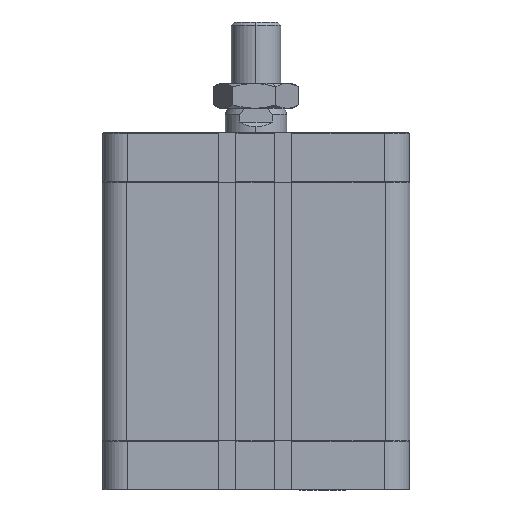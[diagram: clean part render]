
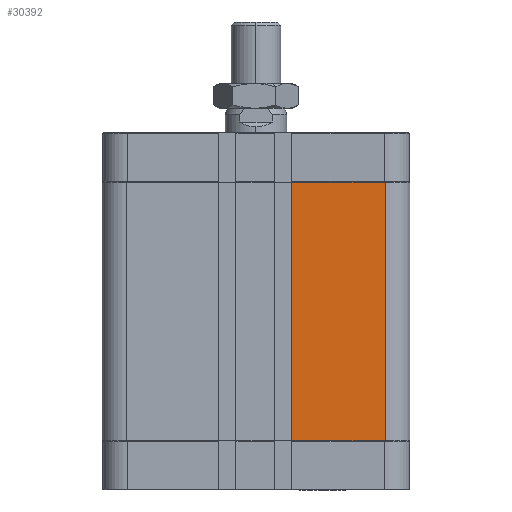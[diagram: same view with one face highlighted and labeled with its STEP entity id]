
A CAD part, front view. The second image highlights one B-rep face of the part: STEP entity #30392.
In plain terms, the highlighted planar face has unit normal (0, -1, 0).
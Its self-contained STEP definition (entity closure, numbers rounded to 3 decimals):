
#1109 = DIRECTION ( 'NONE',  ( 0., 0., 1. ) ) ;
#1254 = FACE_OUTER_BOUND ( 'NONE', #5740, .T. ) ;
#1367 = ORIENTED_EDGE ( 'NONE', *, *, #14420, .F. ) ;
#3745 = CARTESIAN_POINT ( 'NONE',  ( 11.5, -50., -16. ) ) ;
#4423 = VERTEX_POINT ( 'NONE', #3745 ) ;
#4529 = ORIENTED_EDGE ( 'NONE', *, *, #21886, .F. ) ;
#5740 = EDGE_LOOP ( 'NONE', ( #16683, #4529, #33714, #1367 ) ) ;
#6893 = DIRECTION ( 'NONE',  ( 0., 0., -1. ) ) ;
#8558 = VECTOR ( 'NONE', #12212, 1000. ) ;
#9224 = DIRECTION ( 'NONE',  ( 0., 1., 0. ) ) ;
#9579 = CARTESIAN_POINT ( 'NONE',  ( 11.5, -50., -40. ) ) ;
#10669 = DIRECTION ( 'NONE',  ( 0., 0., -1. ) ) ;
#11977 = CARTESIAN_POINT ( 'NONE',  ( -50., -50., -16. ) ) ;
#12101 = AXIS2_PLACEMENT_3D ( 'NONE', #17689, #9224, #1109 ) ;
#12150 = CARTESIAN_POINT ( 'NONE',  ( 11.5, -50., -100. ) ) ;
#12212 = DIRECTION ( 'NONE',  ( 1., 0., 0. ) ) ;
#13912 = EDGE_CURVE ( 'NONE', #4423, #26365, #34645, .T. ) ;
#14420 = EDGE_CURVE ( 'NONE', #4423, #15649, #35392, .T. ) ;
#14483 = LINE ( 'NONE', #28383, #31304 ) ;
#15649 = VERTEX_POINT ( 'NONE', #25069 ) ;
#16683 = ORIENTED_EDGE ( 'NONE', *, *, #13912, .T. ) ;
#17401 = DIRECTION ( 'NONE',  ( -1., 0., 0. ) ) ;
#17689 = CARTESIAN_POINT ( 'NONE',  ( -50., -50., -16. ) ) ;
#21554 = CARTESIAN_POINT ( 'NONE',  ( 42., -50., -16. ) ) ;
#21619 = CARTESIAN_POINT ( 'NONE',  ( 42., -50., -100. ) ) ;
#21886 = EDGE_CURVE ( 'NONE', #28535, #26365, #14483, .T. ) ;
#24723 = EDGE_CURVE ( 'NONE', #15649, #28535, #34579, .T. ) ;
#25069 = CARTESIAN_POINT ( 'NONE',  ( 42., -50., -16. ) ) ;
#26365 = VERTEX_POINT ( 'NONE', #12150 ) ;
#27176 = VECTOR ( 'NONE', #10669, 1000. ) ;
#27965 = PLANE ( 'NONE',  #12101 ) ;
#28383 = CARTESIAN_POINT ( 'NONE',  ( 42., -50., -100. ) ) ;
#28535 = VERTEX_POINT ( 'NONE', #21619 ) ;
#30269 = VECTOR ( 'NONE', #6893, 1000. ) ;
#30392 = ADVANCED_FACE ( 'NONE', ( #1254 ), #27965, .F. ) ;
#31304 = VECTOR ( 'NONE', #17401, 1000. ) ;
#33714 = ORIENTED_EDGE ( 'NONE', *, *, #24723, .F. ) ;
#34579 = LINE ( 'NONE', #21554, #27176 ) ;
#34645 = LINE ( 'NONE', #9579, #30269 ) ;
#35392 = LINE ( 'NONE', #11977, #8558 ) ;
